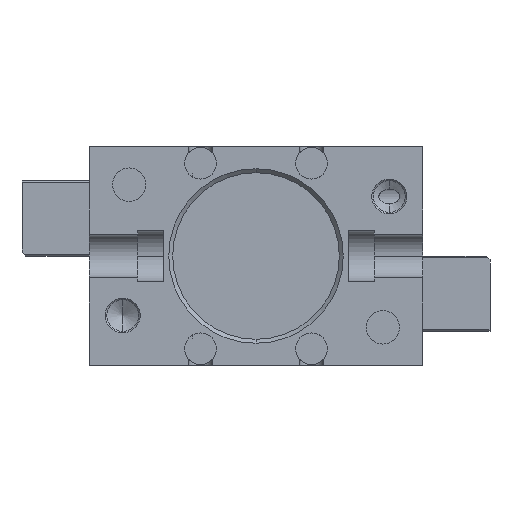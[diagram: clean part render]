
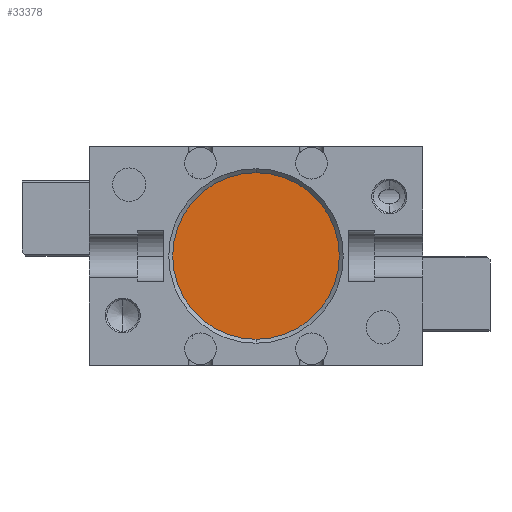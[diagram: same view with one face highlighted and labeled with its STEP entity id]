
A CAD part, front view. The second image highlights one B-rep face of the part: STEP entity #33378.
In plain terms, the highlighted planar face has unit normal (0, -1, 0).
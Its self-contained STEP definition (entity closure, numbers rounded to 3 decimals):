
#2929 = ORIENTED_EDGE ( 'NONE', *, *, #27732, .T. ) ;
#6996 = VERTEX_POINT ( 'NONE', #43375 ) ;
#8598 = FACE_OUTER_BOUND ( 'NONE', #31104, .T. ) ;
#12153 = ORIENTED_EDGE ( 'NONE', *, *, #40804, .T. ) ;
#12769 = AXIS2_PLACEMENT_3D ( 'NONE', #16266, #42104, #20003 ) ;
#14739 = DIRECTION ( 'NONE',  ( 0., -1., 0. ) ) ;
#16266 = CARTESIAN_POINT ( 'NONE',  ( 0., 3., 0. ) ) ;
#20003 = DIRECTION ( 'NONE',  ( 0., 0., -1. ) ) ;
#22235 = VERTEX_POINT ( 'NONE', #41224 ) ;
#23337 = CARTESIAN_POINT ( 'NONE',  ( 0., 3., 0. ) ) ;
#26123 = CIRCLE ( 'NONE', #47876, 10.5 ) ;
#27040 = PLANE ( 'NONE',  #34607 ) ;
#27732 = EDGE_CURVE ( 'NONE', #6996, #22235, #26123, .T. ) ;
#28500 = CIRCLE ( 'NONE', #12769, 10.5 ) ;
#30768 = DIRECTION ( 'NONE',  ( 0., 0., -1. ) ) ;
#31104 = EDGE_LOOP ( 'NONE', ( #12153, #2929 ) ) ;
#33378 = ADVANCED_FACE ( 'NONE', ( #8598 ), #27040, .T. ) ;
#34607 = AXIS2_PLACEMENT_3D ( 'NONE', #23337, #41559, #30768 ) ;
#36867 = CARTESIAN_POINT ( 'NONE',  ( 0., 3., 0. ) ) ;
#40619 = DIRECTION ( 'NONE',  ( 0., 0., -1. ) ) ;
#40804 = EDGE_CURVE ( 'NONE', #22235, #6996, #28500, .T. ) ;
#41224 = CARTESIAN_POINT ( 'NONE',  ( 0., 3., -10.5 ) ) ;
#41559 = DIRECTION ( 'NONE',  ( 0., -1., 0. ) ) ;
#42104 = DIRECTION ( 'NONE',  ( 0., -1., 0. ) ) ;
#43375 = CARTESIAN_POINT ( 'NONE',  ( 0., 3., 10.5 ) ) ;
#47876 = AXIS2_PLACEMENT_3D ( 'NONE', #36867, #14739, #40619 ) ;
